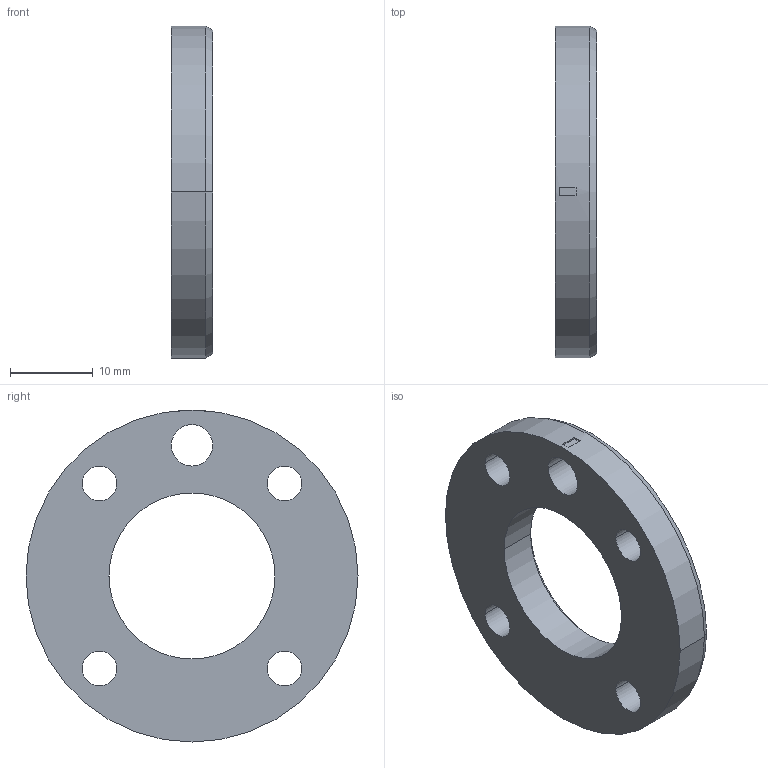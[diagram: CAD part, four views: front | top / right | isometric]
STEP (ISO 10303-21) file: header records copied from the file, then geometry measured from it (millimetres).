
FILE_DESCRIPTION (( 'STEP AP203' ), '1' );
FILE_NAME ('disk_(900).STEP', '2013-12-01T14:08:05', ( 'ABB' ), ( 'ABB' ), 'SwSTEP 2.0', 'SolidWorks 2012', '' );
FILE_SCHEMA (( 'CONFIG_CONTROL_DESIGN' ));
Length unit declared in the file: millimetre
Products named in the file (1): disk_(900)
Bounding box: 5 x 40 x 40 mm (x, y, z)
Volume: 4301.8 mm3; surface area: 2956.1 mm2
Topology: 1 solids, 1 shells, 25 faces, 62 edges, 40 vertices
Faces by surface type: cylinder 14, plane 7, cone 4
Entity records: 859 total; most frequent: DIRECTION 148, CARTESIAN_POINT 128, ORIENTED_EDGE 124, EDGE_CURVE 62, AXIS2_PLACEMENT_3D 60, VERTEX_POINT 40, EDGE_LOOP 38, CIRCLE 34
